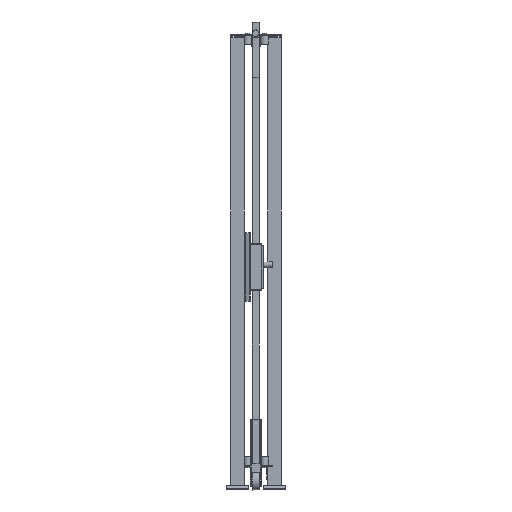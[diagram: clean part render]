
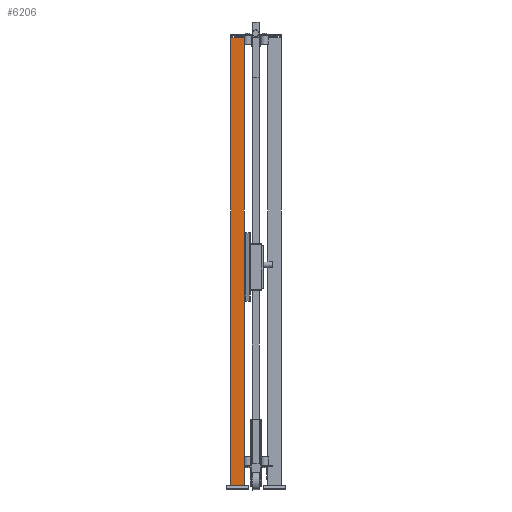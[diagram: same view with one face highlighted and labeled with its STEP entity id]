
A CAD part, left-side view. The second image highlights one B-rep face of the part: STEP entity #6206.
In plain terms, the highlighted planar face has unit normal (-1, 0, 0) as drawn and (0, 1, 0) by its records, which use the part's own axes.
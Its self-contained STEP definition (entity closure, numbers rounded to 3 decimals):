
#632=FACE_OUTER_BOUND('',#1128,.T.);
#1128=EDGE_LOOP('',(#3884,#3885,#3886,#3887));
#1692=VERTEX_POINT('',#13245);
#1693=VERTEX_POINT('',#13247);
#1695=VERTEX_POINT('',#13253);
#1698=VERTEX_POINT('',#13258);
#2522=EDGE_CURVE('',#1692,#1693,#7287,.T.);
#2528=EDGE_CURVE('',#1698,#1695,#7293,.T.);
#2531=EDGE_CURVE('',#1693,#1698,#7296,.T.);
#2532=EDGE_CURVE('',#1692,#1695,#7297,.T.);
#3884=ORIENTED_EDGE('',*,*,#2532,.T.);
#3885=ORIENTED_EDGE('',*,*,#2528,.F.);
#3886=ORIENTED_EDGE('',*,*,#2531,.F.);
#3887=ORIENTED_EDGE('',*,*,#2522,.F.);
#5780=PLANE('',#9264);
#6206=ADVANCED_FACE('',(#632),#5780,.F.);
#7287=LINE('',#13248,#8362);
#7293=LINE('',#13260,#8368);
#7296=LINE('',#13265,#8371);
#7297=LINE('',#13267,#8372);
#8362=VECTOR('',#10417,1.);
#8368=VECTOR('',#10425,1.);
#8371=VECTOR('',#10432,1.);
#8372=VECTOR('',#10435,1.);
#9264=AXIS2_PLACEMENT_3D('',#13266,#10433,#10434);
#10417=DIRECTION('',(-1.,0.,0.));
#10425=DIRECTION('',(1.,0.,0.));
#10432=DIRECTION('',(0.,0.,-1.));
#10433=DIRECTION('center_axis',(0.,-1.,0.));
#10434=DIRECTION('ref_axis',(0.,0.,-1.));
#10435=DIRECTION('',(0.,0.,-1.));
#13245=CARTESIAN_POINT('',(30.,30.,2020.));
#13247=CARTESIAN_POINT('',(-30.,30.,2020.));
#13248=CARTESIAN_POINT('',(0.,30.,2020.));
#13253=CARTESIAN_POINT('',(30.,30.,20.));
#13258=CARTESIAN_POINT('',(-30.,30.,20.));
#13260=CARTESIAN_POINT('',(0.,30.,20.));
#13265=CARTESIAN_POINT('',(-30.,30.,1020.));
#13266=CARTESIAN_POINT('Origin',(0.,30.,
1020.));
#13267=CARTESIAN_POINT('',(30.,30.,1020.));
